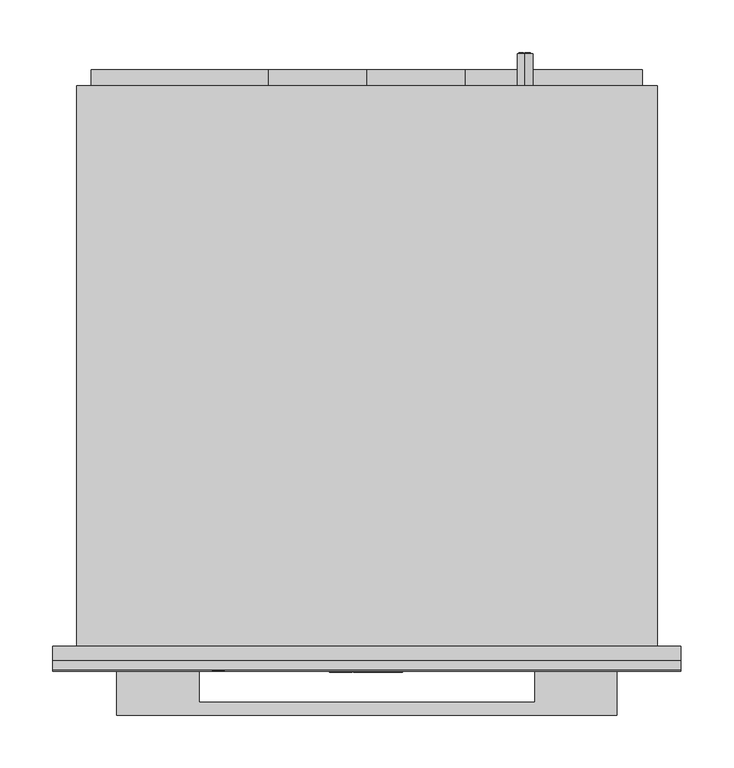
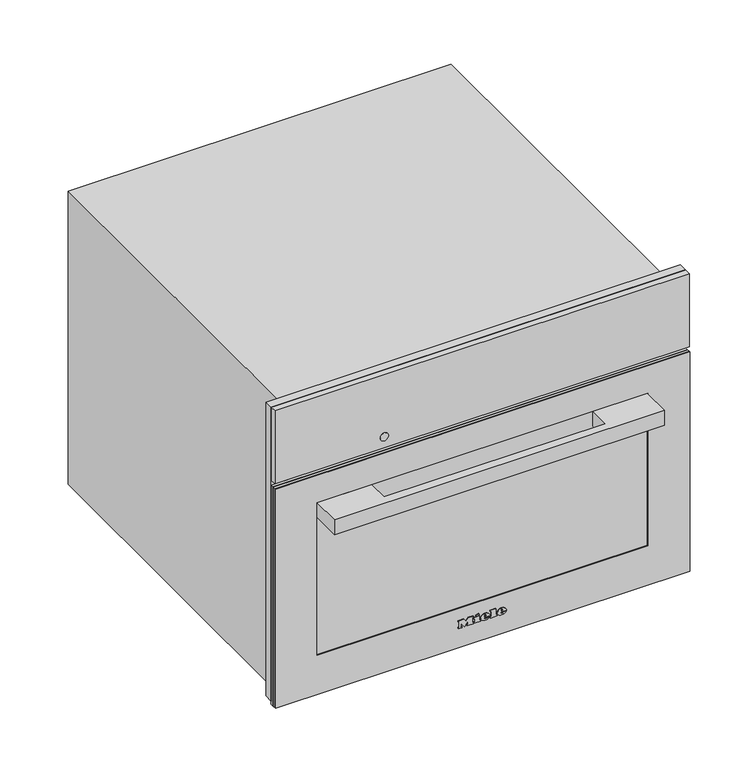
"""IFC4 building model written with IfcOpenShell, lengths in millimetres: proxy geometry, 11708590_BNE_DG7140_EDST-CLST : 23714040_BNE_11708590_DG7140_EDST-CLST."""

from ifc_helpers import new_model, si_unit, point, frame, frame_2d, origin, place, context, project, spatial, polyline, circle_curve, ellipse_curve, trimmed, segment, composite_curve, outline, extrude, faceted_brep, source, transform, mapped, element, save
from ifc_brep_helpers import plane_surface, cylinder_surface, revolved_surface, extruded_surface, advanced_brep


def specialty_equipment_a163ca5c(model_context):
    return source(origin(), model_context, "Body", "SolidModel", [
        extrude(outline(polyline([(455.0, 297.5), (455.0, -297.5), (9.0, -297.5), (9.0, -272.5), (344.0, -272.5), (344.0, 272.5), (9.0, 272.5), (9.0, 297.5), (455.0, 297.5)])), frame((0.0, -13.0, 0.0), z_axis=(0.0, 1.0, 0.0), x_axis=(0.0, 0.0, 1.0)), (0.0, 0.0, 1.0), 13.0),
        advanced_brep(
        [(150.0, 561.0, 410.5), (150.0, 561.0, 395.5), (144.4098301, 561.0, 398.0), (148.5, 561.0, 398.0), (148.5, 561.0, 408.0), (147.4955303, 561.0, 408.0), (147.4955303, 561.0, 399.0), (144.0315043, 561.0, 399.0), (144.0315043, 561.0, 398.4582978), (155.0, 561.0, 398.0), (155.0, 561.0, 408.0), (150.0, 561.0, 408.0), (150.0, 561.0, 407.0), (154.0, 561.0, 407.0), (154.0, 561.0, 403.5), (151.0, 561.0, 403.5), (151.0, 561.0, 402.5), (154.0, 561.0, 402.5), (154.0, 561.0, 399.0), (150.0, 561.0, 399.0), (150.0, 561.0, 398.0), (150.0, 531.0, 395.5), (150.0, 531.0, 410.5), (155.0, 562.0, 408.0), (155.0, 562.0, 398.0), (150.0, 562.0, 398.0), (150.0, 562.0, 399.0), (154.0, 562.0, 399.0), (154.0, 562.0, 402.5), (151.0, 562.0, 402.5), (151.0, 562.0, 403.5), (154.0, 562.0, 403.5), (154.0, 562.0, 407.0), (150.0, 562.0, 407.0), (150.0, 562.0, 408.0), (148.5, 562.0, 398.0), (144.0315043, 562.0, 398.0), (144.0315043, 562.0, 399.0), (147.4955303, 562.0, 399.0), (147.4955303, 562.0, 408.0), (148.5, 562.0, 408.0), (144.0315043, 561.0, 398.0)],
        [
            (0, 1, circle_curve(frame((150.0, 561.0, 403.0), z_axis=(0.0, 1.0, 0.0), x_axis=(0.0, 0.0, 1.0)), 7.5)),
            (1, 2, circle_curve(frame((150.0, 561.0, 403.0), z_axis=(0.0, 1.0, 0.0), x_axis=(0.0, 0.0, 1.0)), 7.5)),
            (2, 3),
            (3, 4),
            (4, 5),
            (5, 6),
            (6, 7),
            (7, 8),
            (8, 0, circle_curve(frame((150.0, 561.0, 403.0), z_axis=(0.0, 1.0, 0.0), x_axis=(0.0, 0.0, 1.0)), 7.5)),
            (9, 10),
            (10, 11),
            (11, 12),
            (12, 13),
            (13, 14),
            (14, 15),
            (15, 16),
            (16, 17),
            (17, 18),
            (18, 19),
            (19, 20),
            (20, 9),
            (21, 22, circle_curve(frame((150.0, 531.0, 403.0), z_axis=(0.0, -1.0, 0.0), x_axis=(0.0, 0.0, 1.0)), 7.5)),
            (22, 21, circle_curve(frame((150.0, 531.0, 403.0), z_axis=(0.0, -1.0, 0.0), x_axis=(0.0, 0.0, 1.0)), 7.5)),
            (0, 22),
            (21, 1),
            (8, 2, circle_curve(frame((150.0, 561.0, 403.0), z_axis=(0.0, -1.0, 0.0), x_axis=(0.0, 0.0, 1.0)), 7.5)),
            (23, 24),
            (24, 25),
            (25, 26),
            (26, 27),
            (27, 28),
            (28, 29),
            (29, 30),
            (30, 31),
            (31, 32),
            (32, 33),
            (33, 34),
            (34, 23),
            (35, 36),
            (36, 37),
            (37, 38),
            (38, 39),
            (39, 40),
            (40, 35),
            (8, 41),
            (41, 2),
            (23, 10),
            (9, 24),
            (20, 25),
            (19, 26),
            (18, 27),
            (17, 28),
            (16, 29),
            (15, 30),
            (14, 31),
            (13, 32),
            (12, 33),
            (11, 34),
            (35, 3),
            (41, 36),
            (7, 37),
            (6, 38),
            (5, 39),
            (4, 40),
        ],
        [
            plane_surface(frame((150.0, 561.0, 410.5), z_axis=(0.0, 1.0, 0.0), x_axis=(1.0, 0.0, 0.0))),
            plane_surface(frame((150.0, 531.0, 410.5), z_axis=(0.0, -1.0, 0.0), x_axis=(-1.0, 0.0, 0.0))),
            cylinder_surface(frame((150.0, 561.0, 403.0), z_axis=(0.0, -1.0, 0.0), x_axis=(0.0, 0.0, 1.0)), 7.5),
            plane_surface(frame((155.0, 562.0, 408.0), z_axis=(0.0, 1.0, 0.0), x_axis=(0.0, 0.0, -1.0))),
            plane_surface(frame((155.0, 561.0, 408.0), z_axis=(0.0, -1.0, 0.0), x_axis=(0.0, 0.0, 1.0))),
            plane_surface(frame((155.0, 562.0, 408.0), z_axis=(1.0, 0.0, 0.0), x_axis=(0.0, -1.0, 0.0))),
            plane_surface(frame((155.0, 562.0, 398.0), z_axis=(0.0, 0.0, -1.0), x_axis=(0.0, -1.0, 0.0))),
            plane_surface(frame((150.0, 562.0, 398.0), z_axis=(-1.0, 0.0, 0.0), x_axis=(0.0, -1.0, 0.0))),
            plane_surface(frame((150.0, 562.0, 399.0), z_axis=(0.0, 0.0, 1.0), x_axis=(0.0, -1.0, 0.0))),
            plane_surface(frame((154.0, 562.0, 399.0), z_axis=(-1.0, 0.0, 0.0), x_axis=(0.0, -1.0, 0.0))),
            plane_surface(frame((154.0, 562.0, 402.5), z_axis=(0.0, 0.0, -1.0), x_axis=(0.0, -1.0, 0.0))),
            plane_surface(frame((151.0, 562.0, 402.5), z_axis=(-1.0, 0.0, 0.0), x_axis=(0.0, -1.0, 0.0))),
            plane_surface(frame((151.0, 562.0, 403.5), z_axis=(0.0, 0.0, 1.0), x_axis=(0.0, -1.0, 0.0))),
            plane_surface(frame((154.0, 562.0, 403.5), z_axis=(-1.0, 0.0, 0.0), x_axis=(0.0, -1.0, 0.0))),
            plane_surface(frame((154.0, 562.0, 407.0), z_axis=(0.0, 0.0, -1.0), x_axis=(0.0, -1.0, 0.0))),
            plane_surface(frame((150.0, 562.0, 407.0), z_axis=(-1.0, 0.0, 0.0), x_axis=(0.0, -1.0, 0.0))),
            plane_surface(frame((150.0, 562.0, 408.0), z_axis=(0.0, 0.0, 1.0), x_axis=(0.0, -1.0, 0.0))),
            plane_surface(frame((148.5, 562.0, 398.0), z_axis=(0.0, 0.0, -1.0), x_axis=(0.0, -1.0, 0.0))),
            plane_surface(frame((144.0315043, 562.0, 398.0), z_axis=(-1.0, 0.0, 0.0), x_axis=(0.0, -1.0, 0.0))),
            plane_surface(frame((144.0315043, 562.0, 399.0), z_axis=(0.0, 0.0, 1.0), x_axis=(0.0, -1.0, 0.0))),
            plane_surface(frame((147.4955303, 562.0, 399.0), z_axis=(-1.0, 0.0, 0.0), x_axis=(0.0, -1.0, 0.0))),
            plane_surface(frame((147.4955303, 562.0, 408.0), z_axis=(0.0, 0.0, 1.0), x_axis=(0.0, -1.0, 0.0))),
            plane_surface(frame((148.5, 562.0, 408.0), z_axis=(1.0, 0.0, 0.0), x_axis=(0.0, -1.0, 0.0))),
        ],
        [
            (0, [[1, 2, 3, 4, 5, 6, 7, 8, 9], [10, 11, 12, 13, 14, 15, 16, 17, 18, 19, 20, 21]]),
            (1, [[22, 23]]),
            (2, [[-1, 24, -22, 25]]),
            (2, [[-23, -24, -9, 26, -2, -25]]),
            (3, [[27, 28, 29, 30, 31, 32, 33, 34, 35, 36, 37, 38]]),
            (3, [[39, 40, 41, 42, 43, 44]]),
            (4, [[45, 46, -26]]),
            (5, [[-27, 47, -10, 48]]),
            (6, [[-28, -48, -21, 49]]),
            (7, [[-29, -49, -20, 50]]),
            (8, [[-30, -50, -19, 51]]),
            (9, [[-31, -51, -18, 52]]),
            (10, [[-32, -52, -17, 53]]),
            (11, [[-33, -53, -16, 54]]),
            (12, [[-34, -54, -15, 55]]),
            (13, [[-35, -55, -14, 56]]),
            (14, [[-36, -56, -13, 57]]),
            (15, [[-37, -57, -12, 58]]),
            (16, [[-38, -58, -11, -47]]),
            (17, [[-39, 59, -3, -46, 60]]),
            (18, [[-40, -60, -45, -8, 61]]),
            (19, [[-41, -61, -7, 62]]),
            (20, [[-42, -62, -6, 63]]),
            (21, [[-43, -63, -5, 64]]),
            (22, [[-44, -64, -4, -59]]),
        ],
    ),
        extrude(outline(polyline([(299.0, -93.0), (258.0, -93.0), (258.0, -261.0), (111.0, -261.0), (111.0, -93.0), (70.0, -93.0), (70.0, 0.0), (70.0, 93.0), (111.0, 93.0), (111.0, 261.0), (258.0, 261.0), (258.0, 93.0), (299.0, 93.0), (299.0, 0.0), (299.0, -93.0)])), frame((0.0, 531.0, 0.0), z_axis=(0.0, 1.0, 0.0), x_axis=(0.0, 0.0, 1.0)), (0.0, 0.0, 1.0), 15.0),
        faceted_brep([(275.0, 531.0, 445.0), (275.0, 531.0, 0.0), (-275.0, 531.0, 0.0), (-275.0, 531.0, 445.0), (275.0, 0.0, 445.0), (-275.0, 0.0, 445.0), (-275.0, 0.0, 0.0), (275.0, 0.0, 0.0), (-272.5, 0.0, 344.0), (272.5, 0.0, 344.0), (272.5, 0.0, 8.0), (-272.5, 0.0, 8.0), (272.5, 34.0, 344.0), (-272.5, 34.0, 344.0), (-272.5, 34.0, 8.0), (272.5, 34.0, 8.0), (161.0, 34.0, 286.0), (161.0, 34.0, 58.0), (-220.0, 34.0, 58.0), (-220.0, 34.0, 286.0), (161.0, 444.0, 286.0), (-220.0, 444.0, 286.0), (-220.0, 444.0, 58.0), (161.0, 444.0, 58.0)], [[[0, 1, 2, 3]], [[4, 5, 6, 7], [8, 9, 10, 11]], [[0, 3, 5, 4]], [[3, 2, 6, 5]], [[2, 1, 7, 6]], [[1, 0, 4, 7]], [[12, 13, 14, 15], [16, 17, 18, 19]], [[13, 12, 9, 8]], [[14, 13, 8, 11]], [[15, 14, 11, 10]], [[12, 15, 10, 9]], [[20, 21, 22, 23]], [[20, 23, 17, 16]], [[23, 22, 18, 17]], [[22, 21, 19, 18]], [[21, 20, 16, 19]]]),
        advanced_brep(
        [(26.2998, -24.3, 36.7018), (26.2998, -24.3, 37.8532), (33.9264, -24.3, 37.8532), (20.6568, -24.3, 37.8532), (23.7918, -24.3, 34.0), (33.7326, -24.3, 36.7018), (30.2898, -24.3, 36.7018), (27.5766, -24.3, 35.425), (26.2998, -24.3, 39.3124), (26.2998, -24.3, 40.555), (28.2492, -24.3, 40.555), (28.2492, -24.3, 39.3124), (26.2998, -23.3, 36.7018), (27.5766, -23.3, 35.425), (30.2898, -23.3, 36.7018), (33.7326, -23.3, 36.7018), (23.7918, -23.3, 34.0), (20.6568, -23.3, 37.8532), (33.9264, -23.3, 37.8532), (26.2998, -23.3, 37.8532), (26.2998, -23.3, 39.3124), (28.2492, -23.3, 39.3124), (28.2492, -23.3, 40.555), (26.2998, -23.3, 40.555)],
        [
            (0, 1),
            (1, 2),
            (2, 3, ellipse_curve(frame((27.2916, -24.3, 37.8532), z_axis=(0.0, -1.0, 0.0), x_axis=(-1.0, 0.0, 0.0)), 6.6348, 5.4834)),
            (3, 4, circle_curve(frame((25.0686622, -24.3, 38.2408), z_axis=(0.0, -1.0, 0.0), x_axis=(0.0, 0.0, -1.0)), 4.4288556)),
            (4, 5, circle_curve(frame((27.1587808, -24.3, 41.2504), z_axis=(0.0, -1.0, 0.0), x_axis=(0.0, 0.0, -1.0)), 7.9940516)),
            (5, 6),
            (6, 7, circle_curve(frame((28.1338588, -24.3, 37.762), z_axis=(0.0, 1.0, 0.0), x_axis=(0.0, 0.0, -1.0)), 2.4025208)),
            (7, 0, circle_curve(frame((27.5766, -24.3, 36.7018), z_axis=(0.0, 1.0, 0.0), x_axis=(0.0, 0.0, -1.0)), 1.2768)),
            (8, 9),
            (9, 10, circle_curve(frame((27.2745, -24.3, 40.555), z_axis=(0.0, 1.0, 0.0), x_axis=(0.0, 0.0, -1.0)), 0.9747)),
            (10, 11),
            (11, 8),
            (12, 13, circle_curve(frame((27.5766, -23.3, 36.7018), z_axis=(0.0, -1.0, 0.0), x_axis=(0.0, 0.0, -1.0)), 1.2768)),
            (13, 14, circle_curve(frame((28.1338588, -23.3, 37.762), z_axis=(0.0, -1.0, 0.0), x_axis=(0.0, 0.0, -1.0)), 2.4025208)),
            (14, 15),
            (15, 16, circle_curve(frame((27.1587808, -23.3, 41.2504), z_axis=(0.0, 1.0, 0.0), x_axis=(0.0, 0.0, -1.0)), 7.9940516)),
            (16, 17, circle_curve(frame((25.0686622, -23.3, 38.2408), z_axis=(0.0, 1.0, 0.0), x_axis=(0.0, 0.0, -1.0)), 4.4288556)),
            (17, 18, ellipse_curve(frame((27.2916, -23.3, 37.8532), z_axis=(0.0, 1.0, 0.0), x_axis=(-1.0, 0.0, 0.0)), 6.6348, 5.4834)),
            (18, 19),
            (19, 12),
            (20, 21),
            (21, 22),
            (22, 23, circle_curve(frame((27.2745, -23.3, 40.555), z_axis=(0.0, -1.0, 0.0), x_axis=(0.0, 0.0, -1.0)), 0.9747)),
            (23, 20),
            (0, 12),
            (19, 1),
            (18, 2),
            (5, 15),
            (14, 6),
            (17, 3),
            (13, 7),
            (16, 4),
            (8, 20),
            (23, 9),
            (22, 10),
            (21, 11),
        ],
        [
            plane_surface(frame((26.2998, -24.3, 37.8532), z_axis=(0.0, -1.0, 0.0), x_axis=(0.0, 0.0, 1.0))),
            plane_surface(frame((26.2998, -23.3, 37.8532), z_axis=(0.0, 1.0, 0.0), x_axis=(0.0, 0.0, -1.0))),
            plane_surface(frame((26.2998, -24.3, 36.7018), z_axis=(1.0, 0.0, 0.0), x_axis=(0.0, 1.0, 0.0))),
            plane_surface(frame((26.2998, -24.3, 37.8532), z_axis=(0.0, 0.0, -1.0), x_axis=(0.0, 1.0, 0.0))),
            plane_surface(frame((33.7326, -24.3, 36.7018), z_axis=(0.0, 0.0, 1.0), x_axis=(0.0, 1.0, 0.0))),
            extruded_surface(trimmed(ellipse_curve(frame((27.2916, -22.3, 37.8532), z_axis=(0.0, -1.0, 0.0), x_axis=(-1.0, 0.0, 0.0)), 6.6348, 5.4834), [point((33.9264, -22.3, 37.8532))], [point((20.6568, -22.3, 37.8532))], True, "CARTESIAN"), (0.0, -1.0, 0.0), 1.0),
            revolved_surface(polyline([(28.1338588, -23.3, 35.3594792), (28.1338588, -24.3, 35.3594792)]), (28.1338588, -23.3, 37.762), (0.0, 1.0, 0.0)),
            revolved_surface(polyline([(27.5766, -23.3, 35.425), (27.5766, -24.3, 35.425)]), (27.5766, -23.3, 36.7018), (0.0, 1.0, 0.0)),
            cylinder_surface(frame((25.0686622, -23.3, 38.2408), z_axis=(0.0, -1.0, 0.0), x_axis=(0.0, 0.0, -1.0)), 4.4288556),
            cylinder_surface(frame((27.1587808, -23.3, 41.2504), z_axis=(0.0, -1.0, 0.0), x_axis=(0.0, 0.0, -1.0)), 7.9940516),
            plane_surface(frame((26.2998, -24.3, 39.3124), z_axis=(1.0, 0.0, 0.0), x_axis=(0.0, 1.0, 0.0))),
            revolved_surface(polyline([(27.2745, -23.3, 39.5803), (27.2745, -24.3, 39.5803)]), (27.2745, -23.3, 40.555), (0.0, 1.0, 0.0)),
            plane_surface(frame((28.2492, -24.3, 40.555), z_axis=(-1.0, 0.0, 0.0), x_axis=(0.0, 1.0, 0.0))),
            plane_surface(frame((28.2492, -24.3, 39.3124), z_axis=(0.0, 0.0, 1.0), x_axis=(0.0, 1.0, 0.0))),
        ],
        [
            (0, [[1, 2, 3, 4, 5, 6, 7, 8], [9, 10, 11, 12]]),
            (1, [[13, 14, 15, 16, 17, 18, 19, 20], [21, 22, 23, 24]]),
            (2, [[-1, 25, -20, 26]]),
            (3, [[-2, -26, -19, 27]]),
            (4, [[-6, 28, -15, 29]]),
            (5, [[-3, -27, -18, 30]]),
            (6, [[-7, -29, -14, 31]]),
            (7, [[-8, -31, -13, -25]]),
            (8, [[-4, -30, -17, 32]]),
            (9, [[-5, -32, -16, -28]]),
            (10, [[-9, 33, -24, 34]]),
            (11, [[-10, -34, -23, 35]]),
            (12, [[-11, -35, -22, 36]]),
            (13, [[-12, -36, -21, -33]]),
        ],
    ),
        advanced_brep(
        [(2.508, -24.3, 36.7018), (2.508, -24.3, 37.8532), (10.1346, -24.3, 37.8532), (-3.135, -24.3, 37.8532), (0.0, -24.3, 34.0), (9.9408, -24.3, 36.7018), (6.498, -24.3, 36.7018), (3.7848, -24.3, 35.425), (2.508, -24.3, 39.3124), (2.508, -24.3, 40.555), (4.4574, -24.3, 40.555), (4.4574, -24.3, 39.3124), (2.508, -23.3, 36.7018), (3.7848, -23.3, 35.425), (6.498, -23.3, 36.7018), (9.9408, -23.3, 36.7018), (0.0, -23.3, 34.0), (-3.135, -23.3, 37.8532), (10.1346, -23.3, 37.8532), (2.508, -23.3, 37.8532), (2.508, -23.3, 39.3124), (4.4574, -23.3, 39.3124), (4.4574, -23.3, 40.555), (2.508, -23.3, 40.555)],
        [
            (0, 1),
            (1, 2),
            (2, 3, ellipse_curve(frame((3.4998, -24.3, 37.8532), z_axis=(0.0, -1.0, 0.0), x_axis=(-1.0, 0.0, 0.0)), 6.6348, 5.4834)),
            (3, 4, circle_curve(frame((1.2768622, -24.3, 38.2408), z_axis=(0.0, -1.0, 0.0), x_axis=(0.0, 0.0, -1.0)), 4.4288556)),
            (4, 5, circle_curve(frame((3.3669808, -24.3, 41.2504), z_axis=(0.0, -1.0, 0.0), x_axis=(0.0, 0.0, -1.0)), 7.9940516)),
            (5, 6),
            (6, 7, circle_curve(frame((4.3420588, -24.3, 37.762), z_axis=(0.0, 1.0, 0.0), x_axis=(0.0, 0.0, -1.0)), 2.4025208)),
            (7, 0, circle_curve(frame((3.7848, -24.3, 36.7018), z_axis=(0.0, 1.0, 0.0), x_axis=(0.0, 0.0, -1.0)), 1.2768)),
            (8, 9),
            (9, 10, circle_curve(frame((3.4827, -24.3, 40.555), z_axis=(0.0, 1.0, 0.0), x_axis=(0.0, 0.0, -1.0)), 0.9747)),
            (10, 11),
            (11, 8),
            (12, 13, circle_curve(frame((3.7848, -23.3, 36.7018), z_axis=(0.0, -1.0, 0.0), x_axis=(0.0, 0.0, -1.0)), 1.2768)),
            (13, 14, circle_curve(frame((4.3420588, -23.3, 37.762), z_axis=(0.0, -1.0, 0.0), x_axis=(0.0, 0.0, -1.0)), 2.4025208)),
            (14, 15),
            (15, 16, circle_curve(frame((3.3669808, -23.3, 41.2504), z_axis=(0.0, 1.0, 0.0), x_axis=(0.0, 0.0, -1.0)), 7.9940516)),
            (16, 17, circle_curve(frame((1.2768622, -23.3, 38.2408), z_axis=(0.0, 1.0, 0.0), x_axis=(0.0, 0.0, -1.0)), 4.4288556)),
            (17, 18, ellipse_curve(frame((3.4998, -23.3, 37.8532), z_axis=(0.0, 1.0, 0.0), x_axis=(-1.0, 0.0, 0.0)), 6.6348, 5.4834)),
            (18, 19),
            (19, 12),
            (20, 21),
            (21, 22),
            (22, 23, circle_curve(frame((3.4827, -23.3, 40.555), z_axis=(0.0, -1.0, 0.0), x_axis=(0.0, 0.0, -1.0)), 0.9747)),
            (23, 20),
            (0, 12),
            (19, 1),
            (18, 2),
            (5, 15),
            (14, 6),
            (17, 3),
            (13, 7),
            (16, 4),
            (8, 20),
            (23, 9),
            (22, 10),
            (21, 11),
        ],
        [
            plane_surface(frame((2.508, -24.3, 37.8532), z_axis=(0.0, -1.0, 0.0), x_axis=(0.0, 0.0, 1.0))),
            plane_surface(frame((2.508, -23.3, 37.8532), z_axis=(0.0, 1.0, 0.0), x_axis=(0.0, 0.0, -1.0))),
            plane_surface(frame((2.508, -24.3, 36.7018), z_axis=(1.0, 0.0, 0.0), x_axis=(0.0, 1.0, 0.0))),
            plane_surface(frame((2.508, -24.3, 37.8532), z_axis=(0.0, 0.0, -1.0), x_axis=(0.0, 1.0, 0.0))),
            plane_surface(frame((9.9408, -24.3, 36.7018), z_axis=(0.0, 0.0, 1.0), x_axis=(0.0, 1.0, 0.0))),
            extruded_surface(trimmed(ellipse_curve(frame((3.4998, -22.3, 37.8532), z_axis=(0.0, -1.0, 0.0), x_axis=(-1.0, 0.0, 0.0)), 6.6348, 5.4834), [point((10.1346, -22.3, 37.8532))], [point((-3.135, -22.3, 37.8532))], True, "CARTESIAN"), (0.0, -1.0, 0.0), 1.0),
            revolved_surface(polyline([(4.3420588, -23.3, 35.3594792), (4.3420588, -24.3, 35.3594792)]), (4.3420588, -23.3, 37.762), (0.0, 1.0, 0.0)),
            revolved_surface(polyline([(3.7848, -23.3, 35.425), (3.7848, -24.3, 35.425)]), (3.7848, -23.3, 36.7018), (0.0, 1.0, 0.0)),
            cylinder_surface(frame((1.2768622, -23.3, 38.2408), z_axis=(0.0, -1.0, 0.0), x_axis=(0.0, 0.0, -1.0)), 4.4288556),
            cylinder_surface(frame((3.3669808, -23.3, 41.2504), z_axis=(0.0, -1.0, 0.0), x_axis=(0.0, 0.0, -1.0)), 7.9940516),
            plane_surface(frame((2.508, -24.3, 39.3124), z_axis=(1.0, 0.0, 0.0), x_axis=(0.0, 1.0, 0.0))),
            revolved_surface(polyline([(3.4827, -23.3, 39.5803), (3.4827, -24.3, 39.5803)]), (3.4827, -23.3, 40.555), (0.0, 1.0, 0.0)),
            plane_surface(frame((4.4574, -24.3, 40.555), z_axis=(-1.0, 0.0, 0.0), x_axis=(0.0, 1.0, 0.0))),
            plane_surface(frame((4.4574, -24.3, 39.3124), z_axis=(0.0, 0.0, 1.0), x_axis=(0.0, 1.0, 0.0))),
        ],
        [
            (0, [[1, 2, 3, 4, 5, 6, 7, 8], [9, 10, 11, 12]]),
            (1, [[13, 14, 15, 16, 17, 18, 19, 20], [21, 22, 23, 24]]),
            (2, [[-1, 25, -20, 26]]),
            (3, [[-2, -26, -19, 27]]),
            (4, [[-6, 28, -15, 29]]),
            (5, [[-3, -27, -18, 30]]),
            (6, [[-7, -29, -14, 31]]),
            (7, [[-8, -31, -13, -25]]),
            (8, [[-4, -30, -17, 32]]),
            (9, [[-5, -32, -16, -28]]),
            (10, [[-9, 33, -24, 34]]),
            (11, [[-10, -34, -23, 35]]),
            (12, [[-11, -35, -22, 36]]),
            (13, [[-12, -36, -21, -33]]),
        ],
    ),
        extrude(outline(polyline([(44.7274, -9.9522), (42.8806, -9.0858), (44.6818, -5.2212), (46.5286, -6.0762), (44.7274, -9.9522)])), frame((0.0, -24.3, 0.0), z_axis=(0.0, 1.0, 0.0), x_axis=(0.0, 0.0, 1.0)), (0.0, 0.0, 1.0), 1.0),
        extrude(outline(polyline([(42.6298, -12.768), (40.5892, -12.768), (40.5892, -11.4114), (35.9152, -11.4114), (35.9152, -12.768), (34.0, -12.768), (34.0, -3.7734), (35.9152, -3.7734), (35.9152, -5.0958), (42.6298, -5.0958), (42.6298, -12.768)])), frame((0.0, -24.3, 0.0), z_axis=(0.0, 1.0, 0.0), x_axis=(0.0, 0.0, 1.0)), (0.0, 0.0, 1.0), 1.0),
        extrude(outline(polyline([(43.5418, 10.773), (43.5418, 12.141), (35.9152, 12.141), (35.9152, 10.773), (34.0, 10.773), (34.0, 20.0184), (35.9152, 20.0184), (35.9152, 18.6162), (45.4, 18.6162), (45.4, 10.773), (43.5418, 10.773)])), frame((0.0, -24.3, 0.0), z_axis=(0.0, 1.0, 0.0), x_axis=(0.0, 0.0, 1.0)), (0.0, 0.0, 1.0), 1.0),
        extrude(outline(polyline([(43.5418, -35.4882), (43.5418, -34.1088), (35.9152, -34.1088), (35.9152, -35.4882), (34.0, -35.4882), (34.0, -30.4722), (35.9152, -30.4722), (35.9152, -31.8402), (40.7429247, -31.8402), (34.0, -26.7444), (40.9402223, -21.6258), (35.9152, -21.6258), (35.9152, -23.028), (34.0, -23.028), (34.0, -13.9308), (35.9152, -13.9308), (35.9152, -15.3786), (43.5418, -15.3786), (43.5418, -13.9308), (45.4, -13.9308), (45.4, -20.8734), (41.125, -24.2022), (45.4, -27.5424), (45.4, -35.4882), (43.5418, -35.4882)])), frame((0.0, -24.3, 0.0), z_axis=(0.0, 1.0, 0.0), x_axis=(0.0, 0.0, 1.0)), (0.0, 0.0, 1.0), 1.0),
        extrude(outline(polyline([(297.5, -22.0), (-297.5, -22.0), (-297.5, -13.0), (297.5, -13.0), (297.5, -22.0)])), frame((0.0, 0.0, 344.0), z_axis=(0.0, 0.0, 1.0), x_axis=(1.0, 0.0, 0.0)), (0.0, 0.0, 1.0), 111.0),
        extrude(outline(composite_curve([segment(trimmed(circle_curve(frame_2d((361.0, -140.5745637)), 6.0), [point((361.0, -146.5745637))], [point((361.0, -134.5745637))], False, "CARTESIAN"), True, "CONTINUOUS"), segment(trimmed(circle_curve(frame_2d((361.0, -140.5745637)), 6.0), [point((361.0, -134.5745637))], [point((361.0, -146.5745637))], False, "CARTESIAN"), True, "CONTINUOUS")], self_intersect=False)), frame((0.0, -22.5, 0.0), z_axis=(0.0, 1.0, 0.0), x_axis=(0.0, 0.0, 1.0)), (0.0, 0.0, 1.0), 1.0),
        extrude(outline(polyline([(297.5, -18.0), (-297.5, -18.0), (-297.5, -13.0), (297.5, -13.0), (297.5, -18.0)])), frame((0.0, 0.0, 4.0), z_axis=(0.0, 0.0, 1.0), x_axis=(1.0, 0.0, 0.0)), (0.0, 0.0, 1.0), 333.0),
        extrude(outline(polyline([(337.0, 297.5), (337.0, -297.5), (4.0, -297.5), (4.0, 297.5), (337.0, 297.5)]), holes=[polyline([(295.5, -237.5), (295.5, 237.5), (64.0, 237.5), (64.0, -237.5), (295.5, -237.5)])]), frame((0.0, -23.3, 0.0), z_axis=(0.0, 1.0, 0.0), x_axis=(0.0, 0.0, 1.0)), (0.0, 0.0, 1.0), 1.3),
        extrude(outline(polyline([(-159.0, -22.0), (-159.0, -53.0), (159.0, -53.0), (159.0, -22.0), (237.0, -22.0), (237.0, -65.0), (-237.0, -65.0), (-237.0, -22.0), (-159.0, -22.0)])), frame((0.0, 0.0, 272.0), z_axis=(0.0, 0.0, 1.0), x_axis=(1.0, 0.0, 0.0)), (0.0, 0.0, 1.0), 22.5),
        extrude(outline(polyline([(297.5, -22.0), (-297.5, -22.0), (-297.5, -18.0), (297.5, -18.0), (297.5, -22.0)])), frame((0.0, 0.0, 4.0), z_axis=(0.0, 0.0, 1.0), x_axis=(1.0, 0.0, 0.0)), (0.0, 0.0, 1.0), 333.0),
    ])


if __name__ == "__main__":
    model = new_model("IFC4")
    model_context = context("Model", 3, world=origin())
    ifc_project = project(units=[si_unit("LENGTHUNIT", "METRE", prefix="MILLI")], contexts=[model_context])
    site = spatial("IfcSite", under=ifc_project)
    building = spatial("IfcBuilding", under=site)
    placement = place(None, origin())
    specialty_equipment_shape = specialty_equipment_a163ca5c(model_context)
    element("IfcBuildingElementProxy", 1, Name="11708590_BNE_DG7140_EDST-CLST : 23714040_BNE_11708590_DG7140_EDST-CLST", ObjectType="11708590_BNE_DG7140_EDST-CLST : 23714040_BNE_11708590_DG7140_EDST-CLST", at=placement, inside=building, context=model_context, shape_type="MappedRepresentation", body=[
        mapped(specialty_equipment_shape, transform((0.0, 0.0, 0.0), x_axis=(1.0, 0.0, 0.0), y_axis=(0.0, 1.0, 0.0), z_axis=(0.0, 0.0, 1.0))),
    ])
    save(model, "model.ifc")
